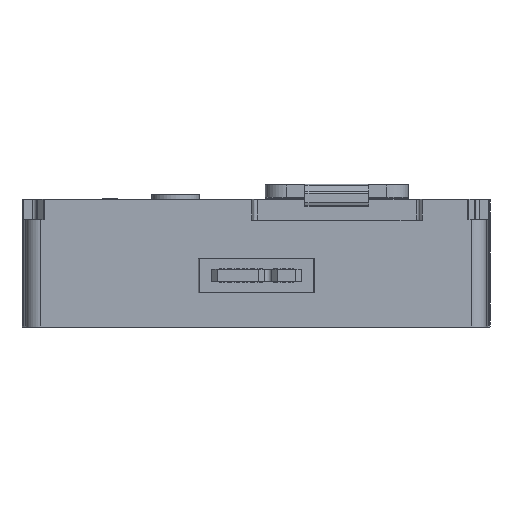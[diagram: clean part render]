
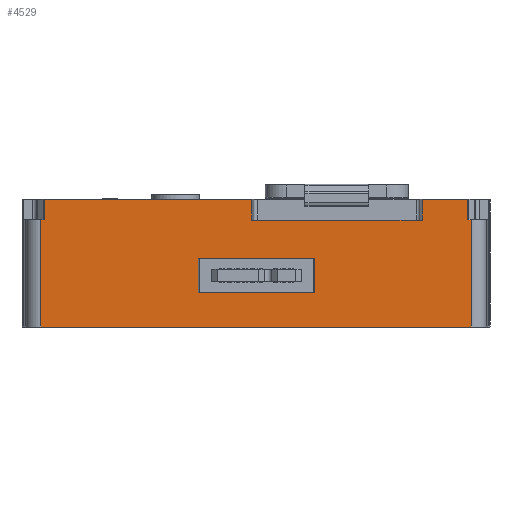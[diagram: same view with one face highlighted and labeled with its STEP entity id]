
A CAD part, left-side view. The second image highlights one B-rep face of the part: STEP entity #4529.
In plain terms, the highlighted planar face has unit normal (-1, 0, 0).
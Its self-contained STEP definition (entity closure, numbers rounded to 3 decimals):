
#1633=PLANE('',#10332);
#2495=B_SPLINE_CURVE_WITH_KNOTS('',3,(#12555,#12556,#12557,#12558,#12559,
#12560,#12561,#12562),.UNSPECIFIED.,.F.,.F.,(4,2,2,4),(0.,0.632,
0.97,1.),.UNSPECIFIED.);
#2516=B_SPLINE_CURVE_WITH_KNOTS('',3,(#12707,#12708,#12709,#12710,#12711,
#12712,#12713,#12714),.UNSPECIFIED.,.F.,.F.,(4,2,2,4),(0.,0.632,
0.97,1.),.UNSPECIFIED.);
#2520=B_SPLINE_CURVE_WITH_KNOTS('',3,(#12745,#12746,#12747,#12748,#12749,
#12750,#12751,#12752),.UNSPECIFIED.,.F.,.F.,(4,2,2,4),(0.,0.632,
0.97,1.),.UNSPECIFIED.);
#2521=B_SPLINE_CURVE_WITH_KNOTS('',3,(#12764,#12765,#12766,#12767),
 .UNSPECIFIED.,.F.,.F.,(4,4),(0.,1.),.UNSPECIFIED.);
#2522=B_SPLINE_CURVE_WITH_KNOTS('',3,(#12772,#12773,#12774,#12775),
 .UNSPECIFIED.,.F.,.F.,(4,4),(0.,1.),.UNSPECIFIED.);
#3096=LINE('',#12739,#3771);
#3097=LINE('',#12741,#3772);
#3098=LINE('',#12743,#3773);
#3099=LINE('',#12754,#3774);
#3100=LINE('',#12756,#3775);
#3101=LINE('',#12758,#3776);
#3102=LINE('',#12759,#3777);
#3103=LINE('',#12761,#3778);
#3104=LINE('',#12763,#3779);
#3105=LINE('',#12770,#3780);
#3106=LINE('',#12777,#3781);
#3771=VECTOR('',#10769,1.);
#3772=VECTOR('',#10770,1.);
#3773=VECTOR('',#10771,1.);
#3774=VECTOR('',#10772,1.);
#3775=VECTOR('',#10773,1.);
#3776=VECTOR('',#10774,1.);
#3777=VECTOR('',#10775,1.);
#3778=VECTOR('',#10776,1.);
#3779=VECTOR('',#10777,1.);
#3780=VECTOR('',#10778,1.);
#3781=VECTOR('',#10779,1.);
#4529=ADVANCED_FACE('',(#5047,#5048),#1633,.F.);
#5047=FACE_BOUND('',#5148,.T.);
#5048=FACE_BOUND('',#5149,.T.);
#5148=EDGE_LOOP('',(#5755,#5756,#5757,#5758,#5759,#5760,#5761,#5762,#5763,
#5764,#5765,#5766));
#5149=EDGE_LOOP('',(#5767,#5768,#5769,#5770));
#5755=ORIENTED_EDGE('',*,*,#9081,.F.);
#5756=ORIENTED_EDGE('',*,*,#9087,.T.);
#5757=ORIENTED_EDGE('',*,*,#9088,.T.);
#5758=ORIENTED_EDGE('',*,*,#9089,.T.);
#5759=ORIENTED_EDGE('',*,*,#9090,.T.);
#5760=ORIENTED_EDGE('',*,*,#9091,.T.);
#5761=ORIENTED_EDGE('',*,*,#9092,.T.);
#5762=ORIENTED_EDGE('',*,*,#9093,.T.);
#5763=ORIENTED_EDGE('',*,*,#9054,.F.);
#5764=ORIENTED_EDGE('',*,*,#9094,.F.);
#5765=ORIENTED_EDGE('',*,*,#9095,.F.);
#5766=ORIENTED_EDGE('',*,*,#9096,.T.);
#5767=ORIENTED_EDGE('',*,*,#9097,.F.);
#5768=ORIENTED_EDGE('',*,*,#9098,.F.);
#5769=ORIENTED_EDGE('',*,*,#9099,.T.);
#5770=ORIENTED_EDGE('',*,*,#9100,.T.);
#8215=VERTEX_POINT('',#12554);
#8216=VERTEX_POINT('',#12563);
#8242=VERTEX_POINT('',#12706);
#8243=VERTEX_POINT('',#12715);
#8248=VERTEX_POINT('',#12740);
#8249=VERTEX_POINT('',#12742);
#8250=VERTEX_POINT('',#12744);
#8251=VERTEX_POINT('',#12753);
#8252=VERTEX_POINT('',#12755);
#8253=VERTEX_POINT('',#12757);
#8254=VERTEX_POINT('',#12760);
#8255=VERTEX_POINT('',#12762);
#8256=VERTEX_POINT('',#12768);
#8257=VERTEX_POINT('',#12769);
#8258=VERTEX_POINT('',#12771);
#8259=VERTEX_POINT('',#12776);
#9054=EDGE_CURVE('',#8215,#8216,#2495,.T.);
#9081=EDGE_CURVE('',#8242,#8243,#2516,.T.);
#9087=EDGE_CURVE('',#8242,#8248,#3096,.T.);
#9088=EDGE_CURVE('',#8248,#8249,#3097,.T.);
#9089=EDGE_CURVE('',#8249,#8250,#3098,.T.);
#9090=EDGE_CURVE('',#8250,#8251,#2520,.T.);
#9091=EDGE_CURVE('',#8251,#8252,#3099,.T.);
#9092=EDGE_CURVE('',#8252,#8253,#3100,.T.);
#9093=EDGE_CURVE('',#8253,#8216,#3101,.T.);
#9094=EDGE_CURVE('',#8254,#8215,#3102,.T.);
#9095=EDGE_CURVE('',#8255,#8254,#3103,.T.);
#9096=EDGE_CURVE('',#8255,#8243,#3104,.T.);
#9097=EDGE_CURVE('',#8256,#8257,#2521,.T.);
#9098=EDGE_CURVE('',#8258,#8256,#3105,.T.);
#9099=EDGE_CURVE('',#8258,#8259,#2522,.T.);
#9100=EDGE_CURVE('',#8259,#8257,#3106,.T.);
#10332=AXIS2_PLACEMENT_3D('',#12778,#10780,#10781);
#10769=DIRECTION('',(0.,0.,-1.));
#10770=DIRECTION('',(0.,1.,0.));
#10771=DIRECTION('',(0.,0.,-1.));
#10772=DIRECTION('',(0.,0.,1.));
#10773=DIRECTION('',(0.,1.,0.));
#10774=DIRECTION('',(0.,0.,1.));
#10775=DIRECTION('',(0.,0.,1.));
#10776=DIRECTION('',(0.,-1.,0.));
#10777=DIRECTION('',(0.,0.,1.));
#10778=DIRECTION('',(0.,0.,1.));
#10779=DIRECTION('',(0.,0.,1.));
#10780=DIRECTION('',(1.,0.,0.));
#10781=DIRECTION('',(0.,1.,0.));
#12554=CARTESIAN_POINT('',(14.,8.849,16.637));
#12555=CARTESIAN_POINT('',(14.,60.485,16.637));
#12556=CARTESIAN_POINT('',(14.,47.853,16.637));
#12557=CARTESIAN_POINT('',(14.,35.22,16.637));
#12558=CARTESIAN_POINT('',(14.,15.814,16.637));
#12559=CARTESIAN_POINT('',(14.,9.04,16.637));
#12560=CARTESIAN_POINT('',(14.,1.671,16.637));
#12561=CARTESIAN_POINT('',(14.,1.075,16.637));
#12562=CARTESIAN_POINT('',(14.,0.479,16.637));
#12563=CARTESIAN_POINT('',(14.,2.882,16.637));
#12706=CARTESIAN_POINT('',(14.,58.082,16.637));
#12707=CARTESIAN_POINT('',(14.,60.485,16.637));
#12708=CARTESIAN_POINT('',(14.,47.853,16.637));
#12709=CARTESIAN_POINT('',(14.,35.22,16.637));
#12710=CARTESIAN_POINT('',(14.,15.814,16.637));
#12711=CARTESIAN_POINT('',(14.,9.04,16.637));
#12712=CARTESIAN_POINT('',(14.,1.671,16.637));
#12713=CARTESIAN_POINT('',(14.,1.075,16.637));
#12714=CARTESIAN_POINT('',(14.,0.479,16.637));
#12715=CARTESIAN_POINT('',(14.,31.065,16.637));
#12739=CARTESIAN_POINT('',(14.,58.082,16.637));
#12740=CARTESIAN_POINT('',(14.,58.082,13.998));
#12741=CARTESIAN_POINT('',(14.,60.485,13.998));
#12742=CARTESIAN_POINT('',(14.,58.503,13.998));
#12743=CARTESIAN_POINT('',(14.,58.503,16.637));
#12744=CARTESIAN_POINT('',(14.,58.503,0.));
#12745=CARTESIAN_POINT('',(14.,60.485,0.));
#12746=CARTESIAN_POINT('',(14.,47.853,0.));
#12747=CARTESIAN_POINT('',(14.,35.22,0.));
#12748=CARTESIAN_POINT('',(14.,15.814,0.));
#12749=CARTESIAN_POINT('',(14.,9.04,0.));
#12750=CARTESIAN_POINT('',(14.,1.671,0.));
#12751=CARTESIAN_POINT('',(14.,1.075,0.));
#12752=CARTESIAN_POINT('',(14.,0.479,0.));
#12753=CARTESIAN_POINT('',(14.,2.462,0.));
#12754=CARTESIAN_POINT('',(14.,2.462,16.637));
#12755=CARTESIAN_POINT('',(14.,2.462,13.998));
#12756=CARTESIAN_POINT('',(14.,60.485,13.998));
#12757=CARTESIAN_POINT('',(14.,2.882,13.998));
#12758=CARTESIAN_POINT('',(14.,2.882,16.637));
#12759=CARTESIAN_POINT('',(14.,8.849,13.906));
#12760=CARTESIAN_POINT('',(14.,8.849,13.906));
#12761=CARTESIAN_POINT('',(14.,31.065,13.906));
#12762=CARTESIAN_POINT('',(14.,31.065,13.906));
#12763=CARTESIAN_POINT('',(14.,31.065,13.906));
#12764=CARTESIAN_POINT('',(14.,22.882,8.909));
#12765=CARTESIAN_POINT('',(14.,27.915,8.909));
#12766=CARTESIAN_POINT('',(14.,32.947,8.909));
#12767=CARTESIAN_POINT('',(14.,37.979,8.909));
#12768=CARTESIAN_POINT('',(14.,22.882,8.909));
#12769=CARTESIAN_POINT('',(14.,37.979,8.909));
#12770=CARTESIAN_POINT('',(14.,22.882,4.448));
#12771=CARTESIAN_POINT('',(14.,22.882,4.448));
#12772=CARTESIAN_POINT('',(14.,22.882,4.448));
#12773=CARTESIAN_POINT('',(14.,27.915,4.448));
#12774=CARTESIAN_POINT('',(14.,32.947,4.448));
#12775=CARTESIAN_POINT('',(14.,37.979,4.448));
#12776=CARTESIAN_POINT('',(14.,37.979,4.448));
#12777=CARTESIAN_POINT('',(14.,37.979,4.448));
#12778=CARTESIAN_POINT('',(14.,60.485,16.637));
